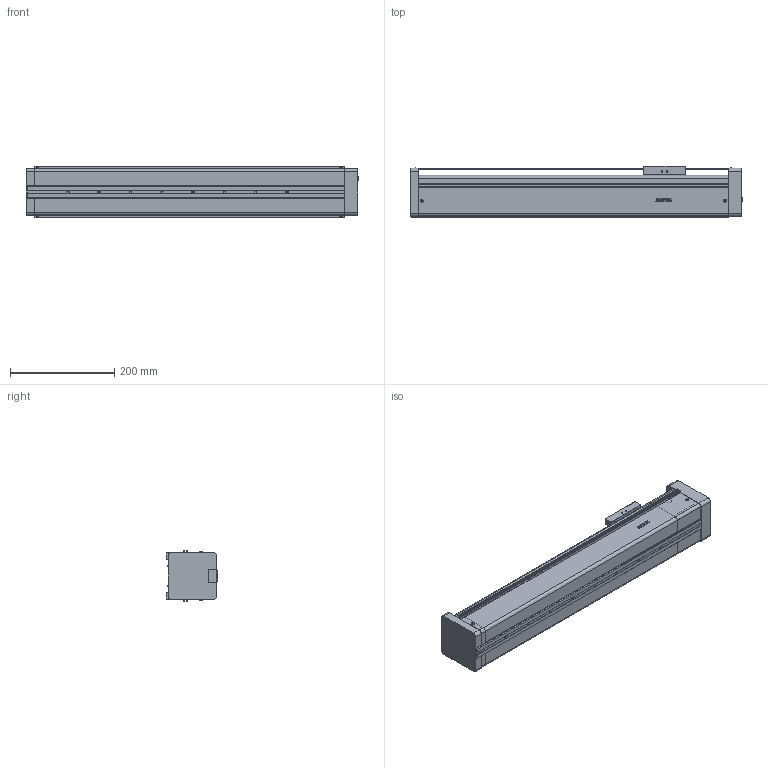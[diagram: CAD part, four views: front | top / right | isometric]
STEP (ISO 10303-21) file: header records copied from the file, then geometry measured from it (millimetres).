
FILE_DESCRIPTION(/* description */ (''),/* implementation_level */ '2;1');
FILE_NAME(/* name */ 'D:\混合母檔20191031\混和母檔\混和母檔\bin\Debug\Download\3D\KE9010C-400AF0\KE9010C-400AF0.stp',/* time_stamp */ '2019-11-04T14:25:07+08:00',/* author */ ('user'),/* organization */ (''),/* preprocessor_version */ 'ST-DEVELOPER v16.13',/* originating_system */ 'Autodesk Inventor 2018',/* authorisation */ '');
FILE_SCHEMA (('AUTOMOTIVE_DESIGN { 1 0 10303 214 3 1 1 }'));
Length unit declared in the file: millimetre
Products named in the file (3): KE9010C-400AF0; KE90-F0-BP; KE90-SL
Assembly tree (2 placements, depth 2):
  KE9010C-400AF0
    KE90-F0-BP
    KE90-SL
Bounding box: 636 x 98 x 98.4 mm (x, y, z)
Volume: 4426238 mm3; surface area: 416617.1 mm2
Topology: 3 solids, 22 shells, 877 faces, 2322 edges, 1532 vertices
Faces by surface type: plane 494, bspline 136, cone 118, cylinder 81, torus 40, sphere 8
Full cylindrical faces by diameter (mm): 2.5 x16, 3 x2, 3.3 x4, 4.2 x4, 4.5 x6, 4.917 x8, 5 x9, 8 x7, 46 x1, 50 x1
Entity records: 30608 total; most frequent: CARTESIAN_POINT 9568, ORIENTED_EDGE 4366, DIRECTION 3853, EDGE_CURVE 2183, VERTEX_POINT 1493, AXIS2_PLACEMENT_3D 1304, LINE 1245, VECTOR 1245
